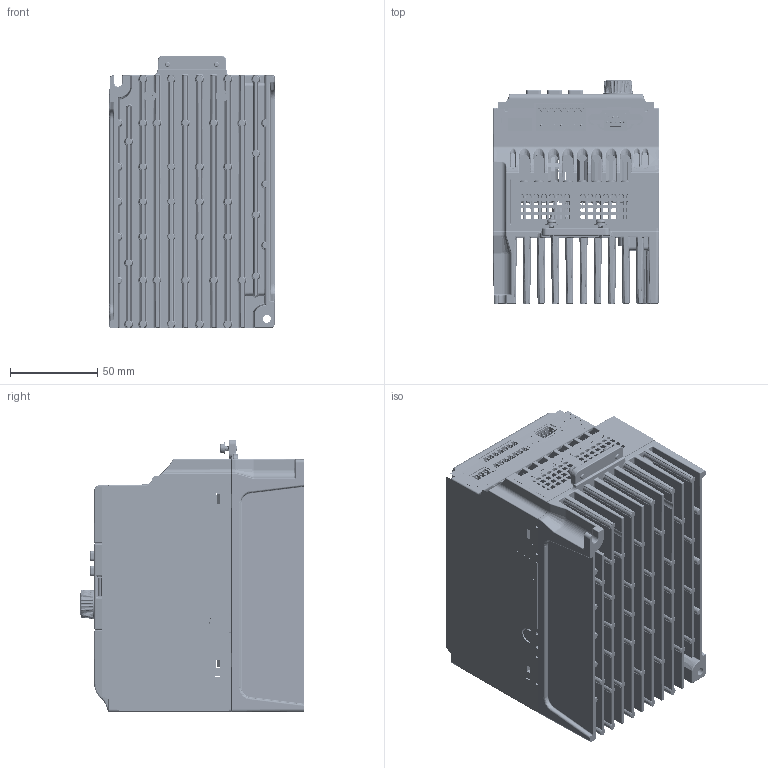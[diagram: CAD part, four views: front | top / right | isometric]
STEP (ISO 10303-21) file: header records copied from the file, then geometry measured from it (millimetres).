
FILE_DESCRIPTION((''),'2;1');
FILE_NAME('00-2011-MINI_B_ASM_122_ASM_1_ASM','2013-03-08T',('liw2xi'),(''),'PRO/ENGINEER BY PARAMETRIC TECHNOLOGY CORPORATION, 2009380','PRO/ENGINEER BY PARAMETRIC TECHNOLOGY CORPORATION, 2009380','');
FILE_SCHEMA(('STRUCTURAL_ANALYSIS_DESIGN'));
Products named in the file (48): HEATSINK_B_98_1; R911330077_BLOCK_14_1; MANIFOLD_SOLID_BREP_100895_1; MANIFOLD_SOLID_BREP_101250_1; _R911330077-KLOTZ_11_1; R911330077-KLOTZ_11_ASM_1_ASM; R911294163_ISO14583-M3X10_12_1; R911330077_ASM_15_ASM_1_ASM; 30X50_6_1; MANIFOLD_SOLID_BREP_55040_1; MANIFOLD_SOLID_BREP_55203_1; _EMC_FILTER_10_1; EMC_FILTER_10_ASM_1_ASM; 01_CASE_156_1; 01-IO_COVER_66_1; LK_YCP06-PLATINE_16_1; R911330262_14_1; R911276876_90_1; DB9_SERIES_PORT_12_1; PRT0001_12_1; R911330080_12_1; CPU_CONNECTOR_3P_12_1; CPU_CONNECTOR-14P_12_1; CONNECTOR_12_1; CONNECTOR_TYCO-331_12_1; LK_YCP06_ASM_51_ASM_1_ASM; 01-IOBACK_CASE_137_1; LD_KCCT_M3X10_14_1; 01_DISPLAYCASE_57_1; DISPLAY_PCB1_15_1; R911329772_12_1; R911330025_12_1; LED_23_1; CONNECTOR2_12_1; DISPLAY_PCB_ASM_22_ASM_1_ASM; BACK_CASE1_53_1; R911330333_FOLIE_34_1; BUUTTON_25_1; XUAN_NIU_30_1; LABEL_15X50_7_1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
Assembly tree (77 placements, depth 5):
  00-2011-MINI_B_ASM_122_ASM_1_ASM
    HEATSINK_B_98_1
    R911330077_ASM_15_ASM_1_ASM
      R911330077_BLOCK_14_1
      R911330077-KLOTZ_11_ASM_1_ASM  x8
        MANIFOLD_SOLID_BREP_100895_1
        MANIFOLD_SOLID_BREP_101250_1
        _R911330077-KLOTZ_11_1
      R911294163_ISO14583-M3X10_12_1  x8
    30X50_6_1  x2
    EMC_FILTER_10_ASM_1_ASM
      MANIFOLD_SOLID_BREP_55040_1
      MANIFOLD_SOLID_BREP_55203_1
      _EMC_FILTER_10_1
    01_CASE_156_1
    01-IOCASE_ASM_82_ASM_1_ASM
      01-IO_COVER_66_1
      LK_YCP06_ASM_51_ASM_1_ASM
        LK_YCP06-PLATINE_16_1
        R911330262_14_1
        R911276876_90_1
        DB9_SERIES_PORT_12_1
        PRT0001_12_1
        R911330080_12_1
        CPU_CONNECTOR_3P_12_1
        CPU_CONNECTOR-14P_12_1
        CONNECTOR_12_1
        CONNECTOR_TYCO-331_12_1
      01-IOBACK_CASE_137_1
      LD_KCCT_M3X10_14_1  x2
      02-DISPLAY-CASE_ASM_47_ASM_1_ASM
        01_DISPLAYCASE_57_1
        DISPLAY_PCB_ASM_22_ASM_1_ASM
          DISPLAY_PCB1_15_1
          R911329772_12_1  x6
          R911330025_12_1
          LED_23_1
          CONNECTOR2_12_1
          CONNECTOR_TYCO-331_12_1
        BACK_CASE1_53_1
        R911330333_FOLIE_34_1
        BUUTTON_25_1
        XUAN_NIU_30_1
        LD_KCCT_M3X10_14_1  x2
        LABEL_15X50_7_1
      DB272710_16_1
      LABEL_15X50_7_1
    LDZHJ_SZCYZT_M4X8_11_1  x4
    DB165290_10_1
    LOGO_REXROTH_17_1
    LDZHJ_SZCYZT_M3X8_4_1  x2
    LABEL_15X50_7_1
Bounding box: 95.1 x 128.05 x 156.03 mm (x, y, z)
Volume: 551423.7 mm3; surface area: 475461.1 mm2
Topology: 75 solids, 154 shells, 11852 faces, 31990 edges, 20579 vertices
Faces by surface type: plane 6119, cylinder 3127, bspline 795, torus 773, cone 489, sphere 242, extrusion 165, revolution 142
Entity records: 381653 total; most frequent: CARTESIAN_POINT 129235, ORIENTED_EDGE 53918, DIRECTION 49438, EDGE_CURVE 27425, VERTEX_POINT 17800, VECTOR 16968, LINE 16810, AXIS2_PLACEMENT_3D 16164
